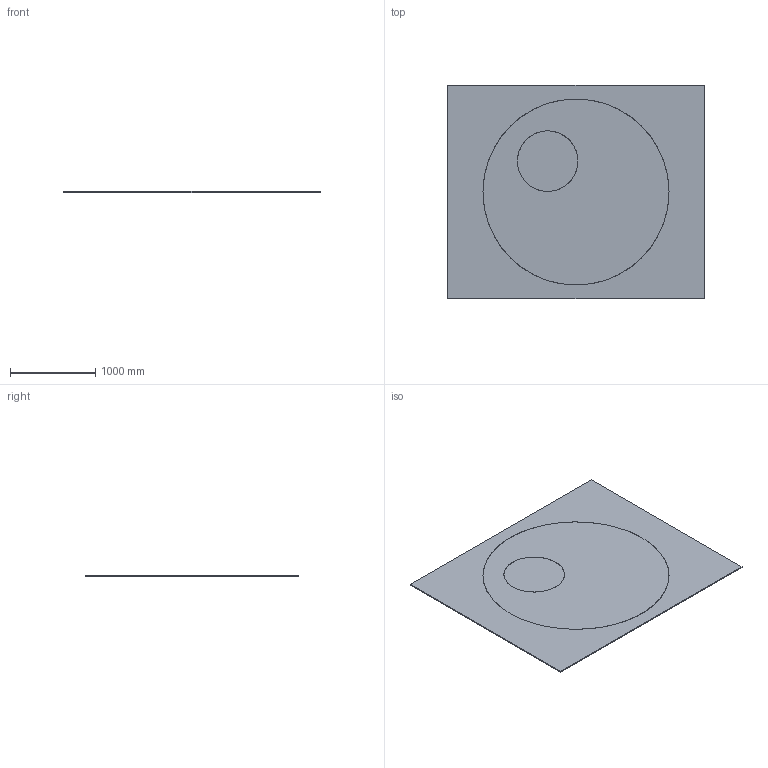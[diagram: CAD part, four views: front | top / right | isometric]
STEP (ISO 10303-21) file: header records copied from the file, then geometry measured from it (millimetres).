
FILE_DESCRIPTION(/* description */ (''),/* implementation_level */ '2;1');
FILE_NAME(/* name */ 'LaLune-Rug_300x250_3D_JS_20231010',/* time_stamp */ '2023-10-10T17:24:44+02:00',/* author */ (''),/* organization */ (''),/* preprocessor_version */ 'ST-DEVELOPER v16.5',/* originating_system */ 'Rhino 7.33',/* authorisation */ '');
FILE_SCHEMA (('CONFIG_CONTROL_DESIGN'));
Length unit declared in the file: millimetre
Products named in the file (1): Document
Bounding box: 3000.24 x 2500 x 12 mm (x, y, z)
Volume: 90007175.6 mm3; surface area: 15350966.1 mm2
Topology: 3 solids, 3 shells, 18 faces, 36 edges, 24 vertices
Faces by surface type: plane 10, cylinder 8
Entity records: 528 total; most frequent: CARTESIAN_POINT 164, ORIENTED_EDGE 72, EDGE_CURVE 36, VERTEX_POINT 24, EDGE_LOOP 22, DIRECTION 22, B_SPLINE_CURVE_WITH_KNOTS 20, AXIS2_PLACEMENT_3D 20
